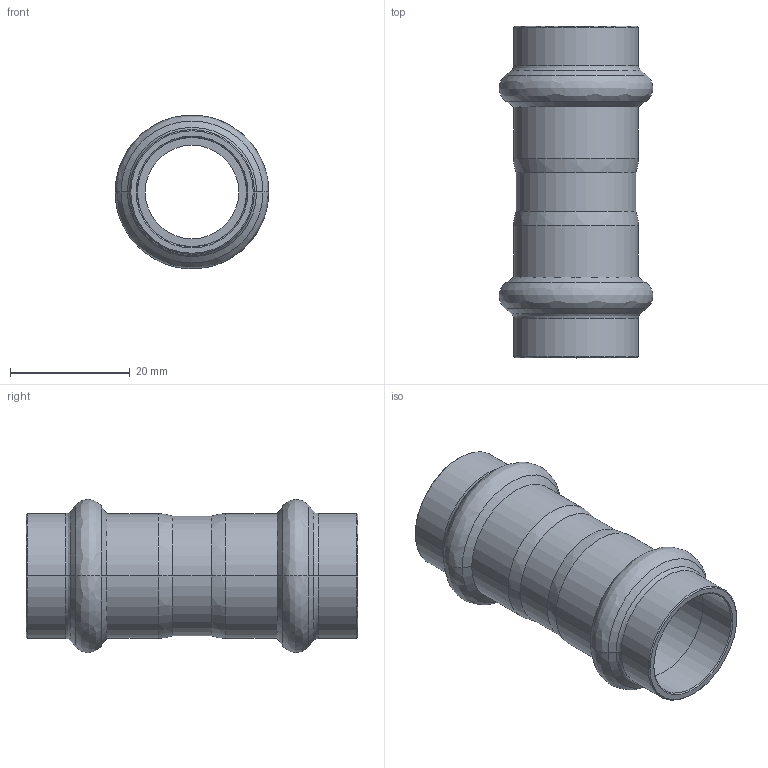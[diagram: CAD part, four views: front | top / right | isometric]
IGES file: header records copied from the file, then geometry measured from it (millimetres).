
Start section: Elysium IGES Interface
Global section: file name: C:\Users\Wallenburg\Desktop\3d modellen sudo\S-Pr VP\SP6270V\6270VW18.igs; native system: CoCreate Modeling 17.00A  17-Jun-2010; preprocessor: CoCreate IGES_3D V2.2; author: Unknown; organization: Unknown; date: 20130110.092149; units: millimetre
Bounding box: 25.7 x 55.51 x 25.68 mm (x, y, z)
Volume: 5967.6 mm3; surface area: 7575.2 mm2
Topology: 1 solids, 1 shells, 74 faces, 148 edges, 80 vertices
Faces by surface type: bspline 74
